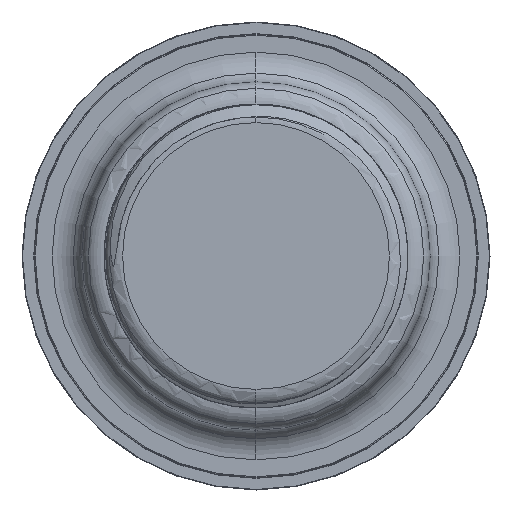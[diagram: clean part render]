
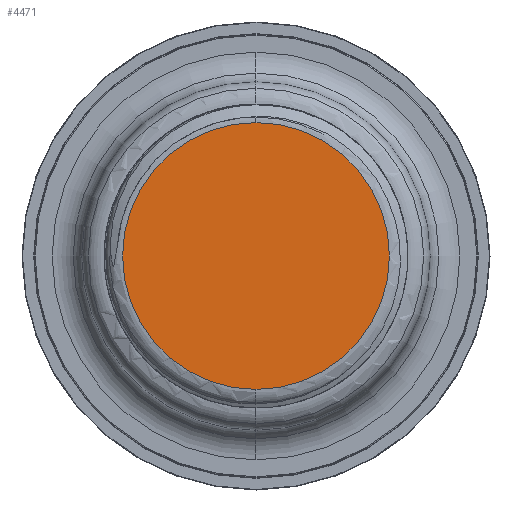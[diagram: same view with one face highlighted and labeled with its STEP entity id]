
A CAD part, front view. The second image highlights one B-rep face of the part: STEP entity #4471.
In plain terms, the highlighted planar face has unit normal (0, -1, 0).
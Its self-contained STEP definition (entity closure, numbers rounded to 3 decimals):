
#2579=CARTESIAN_POINT('',(0.,-56.303,0.));
#2580=DIRECTION('',(0.,-1.,0.));
#2581=DIRECTION('',(0.,0.,-1.));
#2582=AXIS2_PLACEMENT_3D('',#2579,#2580,#2581);
#2584=CARTESIAN_POINT('',(0.,-56.303,0.));
#2585=DIRECTION('',(0.,-1.,0.));
#2586=DIRECTION('',(0.,0.,1.));
#2587=AXIS2_PLACEMENT_3D('',#2584,#2585,#2586);
#3525=CARTESIAN_POINT('',(0.,-56.303,-18.));
#3526=VERTEX_POINT('',#3525);
#3528=CARTESIAN_POINT('',(0.,-56.303,18.));
#3530=VERTEX_POINT('',#3528);
#4462=CARTESIAN_POINT('',(0.,-56.303,0.));
#4463=DIRECTION('',(0.,-1.,0.));
#4464=DIRECTION('',(0.,0.,-1.));
#4465=AXIS2_PLACEMENT_3D('',#4462,#4463,#4464);
#4466=PLANE('',#4465);
#4467=ORIENTED_EDGE('',*,*,#4422,.F.);
#4468=ORIENTED_EDGE('',*,*,#4452,.F.);
#4469=EDGE_LOOP('',(#4467,#4468));
#4470=FACE_OUTER_BOUND('',#4469,.F.);
#2583=CIRCLE('',#2582,18.);
#2588=CIRCLE('',#2587,18.);
#4422=EDGE_CURVE('',#3526,#3530,#2583,.T.);
#4452=EDGE_CURVE('',#3530,#3526,#2588,.T.);
#4471=ADVANCED_FACE('',(#4470),#4466,.T.);
